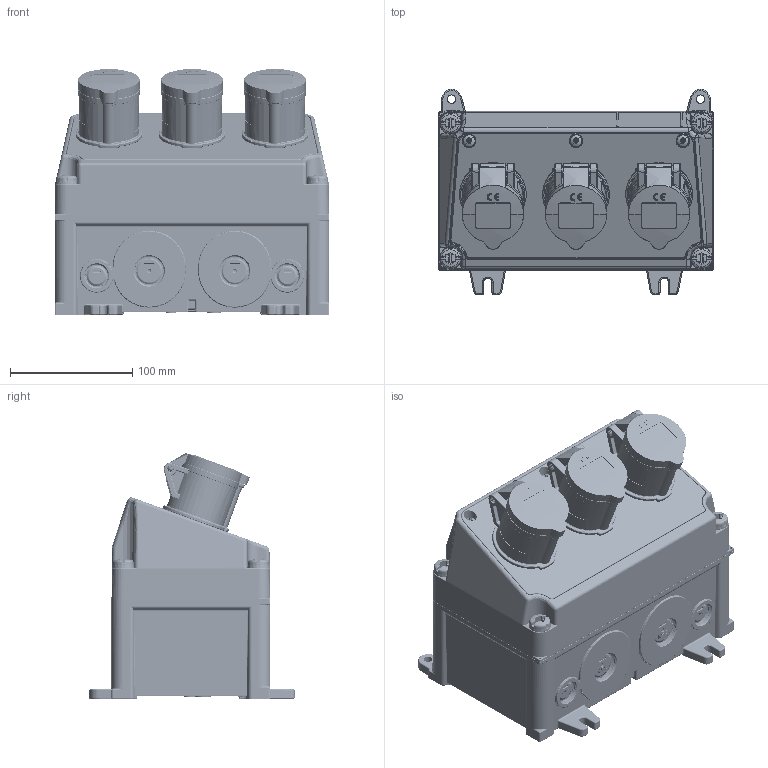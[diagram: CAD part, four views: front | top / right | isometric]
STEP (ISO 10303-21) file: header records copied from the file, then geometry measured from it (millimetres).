
FILE_DESCRIPTION((''),'2;1');
FILE_NAME('910015-1_ASM_1_ASM','2017-11-20T',('kremer'),('MENNEKES'),'PRO/ENGINEER BY PARAMETRIC TECHNOLOGY CORPORATION, 2015440','PRO/ENGINEER BY PARAMETRIC TECHNOLOGY CORPORATION, 2015440','');
FILE_SCHEMA(('AUTOMOTIVE_DESIGN { 1 0 10303 214 1 1 1 1 }'));
Products named in the file (4): 1-4_SW_O_GRAU_1; MP_LEER_GRAU_1; AMAXX_CEE_16_3_44_BLAU_1; 910015-1_ASM_1_ASM
Assembly tree (5 placements, depth 2):
  910015-1_ASM_1_ASM
    1-4_SW_O_GRAU_1
    MP_LEER_GRAU_1
    AMAXX_CEE_16_3_44_BLAU_1  x3
Bounding box: 225 x 168.2 x 201.23 mm (x, y, z)
Volume: 2876666.5 mm3; surface area: 368208.1 mm2
Topology: 5 solids, 5 shells, 5088 faces, 13560 edges, 8498 vertices
Faces by surface type: plane 2075, cylinder 1357, bspline 656, torus 649, cone 187, sphere 158, extrusion 6
Entity records: 206839 total; most frequent: CARTESIAN_POINT 69200, ORIENTED_EDGE 23350, DIRECTION 20155, EDGE_CURVE 11675, VERTEX_POINT 7376, AXIS2_PLACEMENT_3D 7113, VECTOR 5929, LINE 5923
